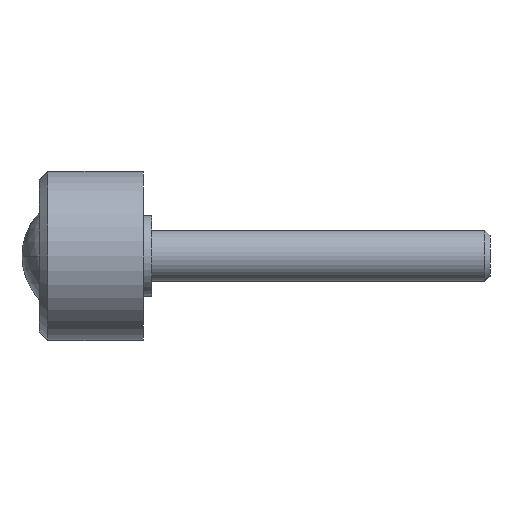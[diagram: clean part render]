
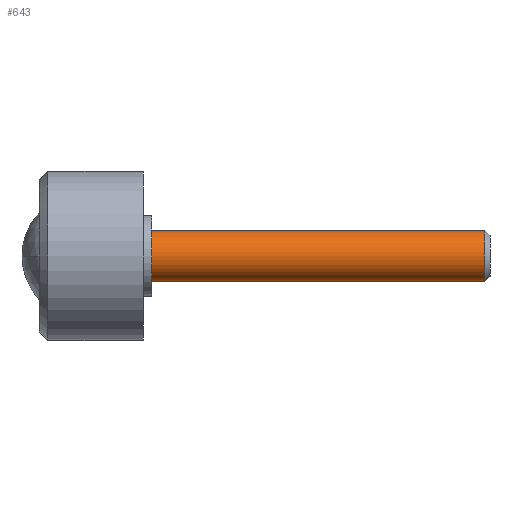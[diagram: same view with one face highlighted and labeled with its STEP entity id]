
A CAD part, left-side view. The second image highlights one B-rep face of the part: STEP entity #643.
In plain terms, the highlighted cylindrical face has radius 6 mm (diameter 12 mm), a partial arc.
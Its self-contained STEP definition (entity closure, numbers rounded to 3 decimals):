
#5 = AXIS2_PLACEMENT_3D ( 'NONE', #390, #89, #734 ) ;
#18 = ORIENTED_EDGE ( 'NONE', *, *, #458, .T. ) ;
#31 = VECTOR ( 'NONE', #201, 1000. ) ;
#73 = CARTESIAN_POINT ( 'NONE',  ( 0., -80.8, 0. ) ) ;
#76 = DIRECTION ( 'NONE',  ( 0., 1., 0. ) ) ;
#85 = ORIENTED_EDGE ( 'NONE', *, *, #338, .F. ) ;
#88 = VERTEX_POINT ( 'NONE', #703 ) ;
#89 = DIRECTION ( 'NONE',  ( 0., 1., 0. ) ) ;
#92 = CARTESIAN_POINT ( 'NONE',  ( 0., -2., 0. ) ) ;
#95 = CIRCLE ( 'NONE', #320, 6. ) ;
#100 = EDGE_CURVE ( 'NONE', #88, #748, #439, .T. ) ;
#166 = CARTESIAN_POINT ( 'NONE',  ( 0., -2., -6. ) ) ;
#201 = DIRECTION ( 'NONE',  ( 0., 1., 0. ) ) ;
#211 = CYLINDRICAL_SURFACE ( 'NONE', #5, 6. ) ;
#234 = DIRECTION ( 'NONE',  ( 0., -1., 0. ) ) ;
#260 = VECTOR ( 'NONE', #76, 1000. ) ;
#320 = AXIS2_PLACEMENT_3D ( 'NONE', #73, #553, #490 ) ;
#329 = ORIENTED_EDGE ( 'NONE', *, *, #479, .T. ) ;
#333 = AXIS2_PLACEMENT_3D ( 'NONE', #92, #234, #344 ) ;
#338 = EDGE_CURVE ( 'NONE', #685, #748, #687, .T. ) ;
#344 = DIRECTION ( 'NONE',  ( 0., 0., -1. ) ) ;
#350 = LINE ( 'NONE', #416, #260 ) ;
#358 = EDGE_LOOP ( 'NONE', ( #85, #329, #18, #581 ) ) ;
#390 = CARTESIAN_POINT ( 'NONE',  ( 0., -82., 0. ) ) ;
#416 = CARTESIAN_POINT ( 'NONE',  ( 0., -82., 6. ) ) ;
#439 = CIRCLE ( 'NONE', #333, 6. ) ;
#458 = EDGE_CURVE ( 'NONE', #624, #88, #350, .T. ) ;
#479 = EDGE_CURVE ( 'NONE', #685, #624, #95, .T. ) ;
#490 = DIRECTION ( 'NONE',  ( 0., 0., -1. ) ) ;
#553 = DIRECTION ( 'NONE',  ( 0., 1., 0. ) ) ;
#575 = CARTESIAN_POINT ( 'NONE',  ( 0., -82., -6. ) ) ;
#581 = ORIENTED_EDGE ( 'NONE', *, *, #100, .T. ) ;
#605 = CARTESIAN_POINT ( 'NONE',  ( 0., -80.8, -6. ) ) ;
#624 = VERTEX_POINT ( 'NONE', #677 ) ;
#643 = ADVANCED_FACE ( 'NONE', ( #686 ), #211, .T. ) ;
#677 = CARTESIAN_POINT ( 'NONE',  ( 0., -80.8, 6. ) ) ;
#685 = VERTEX_POINT ( 'NONE', #605 ) ;
#686 = FACE_OUTER_BOUND ( 'NONE', #358, .T. ) ;
#687 = LINE ( 'NONE', #575, #31 ) ;
#703 = CARTESIAN_POINT ( 'NONE',  ( 0., -2., 6. ) ) ;
#734 = DIRECTION ( 'NONE',  ( 0., 0., 1. ) ) ;
#748 = VERTEX_POINT ( 'NONE', #166 ) ;
